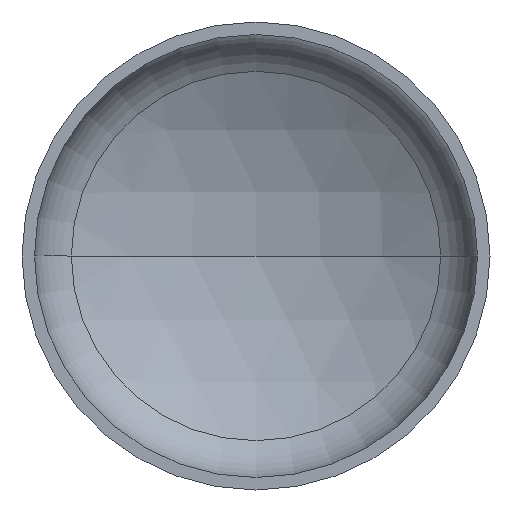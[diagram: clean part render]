
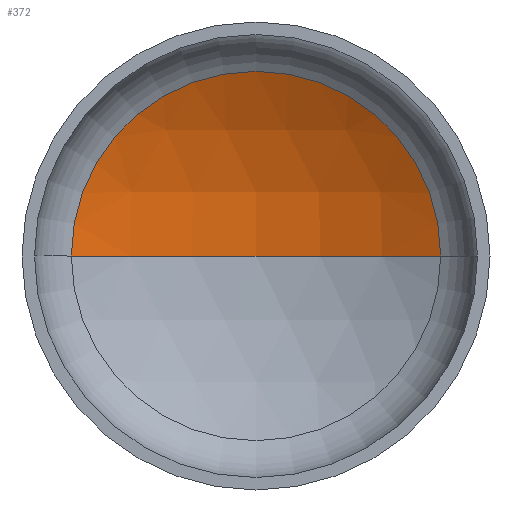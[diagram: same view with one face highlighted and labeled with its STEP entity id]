
A CAD part, front view. The second image highlights one B-rep face of the part: STEP entity #372.
In plain terms, the highlighted spherical face has radius 720 mm.
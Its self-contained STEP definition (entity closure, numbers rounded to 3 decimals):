
#2 = AXIS2_PLACEMENT_3D ( 'NONE', #178, #403, #144 ) ;
#7 = ORIENTED_EDGE ( 'NONE', *, *, #323, .T. ) ;
#12 = EDGE_LOOP ( 'NONE', ( #68, #52, #7 ) ) ;
#15 = AXIS2_PLACEMENT_3D ( 'NONE', #138, #139, #166 ) ;
#16 = AXIS2_PLACEMENT_3D ( 'NONE', #396, #395, #181 ) ;
#34 = VERTEX_POINT ( 'NONE', #247 ) ;
#40 = VERTEX_POINT ( 'NONE', #283 ) ;
#52 = ORIENTED_EDGE ( 'NONE', *, *, #303, .T. ) ;
#68 = ORIENTED_EDGE ( 'NONE', *, *, #308, .F. ) ;
#138 = CARTESIAN_POINT ( 'NONE',  ( 0., -429.583, 0. ) ) ;
#139 = DIRECTION ( 'NONE',  ( 0., 0., 1. ) ) ;
#144 = DIRECTION ( 'NONE',  ( 1., 0., 0. ) ) ;
#159 = DIRECTION ( 'NONE',  ( 0., 0., -1. ) ) ;
#166 = DIRECTION ( 'NONE',  ( 1., 0., 0. ) ) ;
#178 = CARTESIAN_POINT ( 'NONE',  ( 0., 196.796, 0. ) ) ;
#181 = DIRECTION ( 'NONE',  ( -1., 0., 0. ) ) ;
#216 = DIRECTION ( 'NONE',  ( -1., 0., 0. ) ) ;
#219 = CIRCLE ( 'NONE', #15, 720. ) ;
#247 = CARTESIAN_POINT ( 'NONE',  ( 0., 290.417, 0. ) ) ;
#253 = FACE_OUTER_BOUND ( 'NONE', #12, .T. ) ;
#261 = CARTESIAN_POINT ( 'NONE',  ( 0., -429.583, 0. ) ) ;
#263 = CIRCLE ( 'NONE', #2, 355.034 ) ;
#283 = CARTESIAN_POINT ( 'NONE',  ( 355.034, 196.796, 0. ) ) ;
#303 = EDGE_CURVE ( 'NONE', #34, #40, #404, .T. ) ;
#308 = EDGE_CURVE ( 'NONE', #34, #399, #219, .T. ) ;
#319 = SPHERICAL_SURFACE ( 'NONE', #383, 720. ) ;
#323 = EDGE_CURVE ( 'NONE', #40, #399, #263, .T. ) ;
#370 = CARTESIAN_POINT ( 'NONE',  ( -355.034, 196.796, 0. ) ) ;
#372 = ADVANCED_FACE ( 'NONE', ( #253 ), #319, .F. ) ;
#383 = AXIS2_PLACEMENT_3D ( 'NONE', #261, #159, #216 ) ;
#395 = DIRECTION ( 'NONE',  ( 0., 0., -1. ) ) ;
#396 = CARTESIAN_POINT ( 'NONE',  ( 0., -429.583, 0. ) ) ;
#399 = VERTEX_POINT ( 'NONE', #370 ) ;
#403 = DIRECTION ( 'NONE',  ( 0., -1., 0. ) ) ;
#404 = CIRCLE ( 'NONE', #16, 720. ) ;
